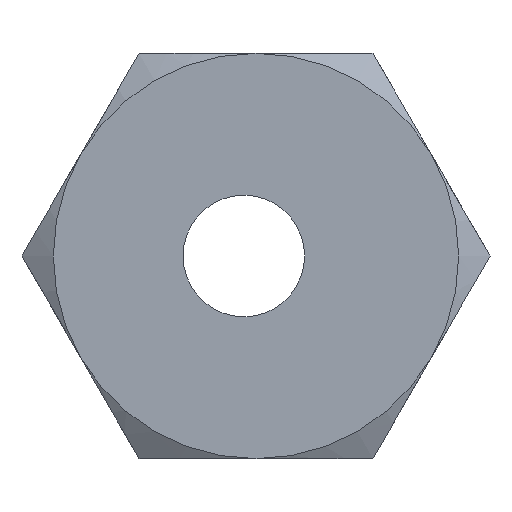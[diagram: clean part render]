
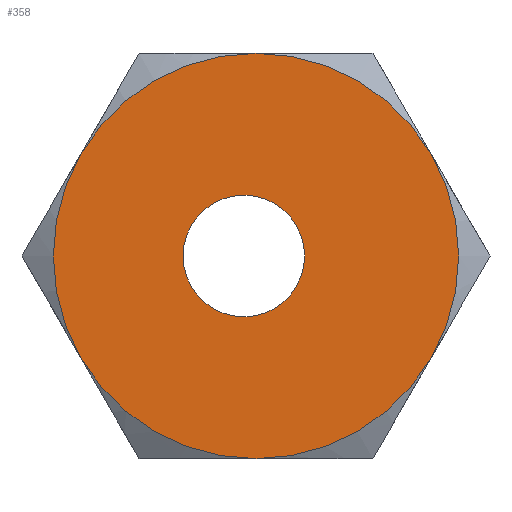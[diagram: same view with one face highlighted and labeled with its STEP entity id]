
A CAD part, left-side view. The second image highlights one B-rep face of the part: STEP entity #358.
In plain terms, the highlighted planar face has unit normal (-1, 0, 0).
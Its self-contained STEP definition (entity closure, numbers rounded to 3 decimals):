
#1 = CIRCLE ( 'NONE', #609, 5. ) ;
#13 = AXIS2_PLACEMENT_3D ( 'NONE', #542, #236, #647 ) ;
#50 = CARTESIAN_POINT ( 'NONE',  ( 0., 0., 0. ) ) ;
#55 = CARTESIAN_POINT ( 'NONE',  ( 0., 0., 0. ) ) ;
#62 = CARTESIAN_POINT ( 'NONE',  ( 0., 0., 0. ) ) ;
#63 = CIRCLE ( 'NONE', #154, 5. ) ;
#100 = ORIENTED_EDGE ( 'NONE', *, *, #121, .T. ) ;
#102 = DIRECTION ( 'NONE',  ( -1., 0., 0. ) ) ;
#103 = ORIENTED_EDGE ( 'NONE', *, *, #471, .T. ) ;
#106 = DIRECTION ( 'NONE',  ( 0., 1., 0. ) ) ;
#116 = CARTESIAN_POINT ( 'NONE',  ( 0., -4.33, 2.5 ) ) ;
#118 = CARTESIAN_POINT ( 'NONE',  ( 0., -4.33, -2.5 ) ) ;
#121 = EDGE_CURVE ( 'NONE', #194, #604, #63, .T. ) ;
#124 = DIRECTION ( 'NONE',  ( -1., 0., 0. ) ) ;
#131 = AXIS2_PLACEMENT_3D ( 'NONE', #160, #124, #431 ) ;
#154 = AXIS2_PLACEMENT_3D ( 'NONE', #62, #475, #106 ) ;
#158 = DIRECTION ( 'NONE',  ( 0., 1., 0. ) ) ;
#160 = CARTESIAN_POINT ( 'NONE',  ( 0., 0., 0. ) ) ;
#166 = AXIS2_PLACEMENT_3D ( 'NONE', #559, #249, #509 ) ;
#185 = FACE_OUTER_BOUND ( 'NONE', #624, .T. ) ;
#190 = ORIENTED_EDGE ( 'NONE', *, *, #305, .T. ) ;
#194 = VERTEX_POINT ( 'NONE', #230 ) ;
#198 = DIRECTION ( 'NONE',  ( -1., 0., 0. ) ) ;
#207 = CARTESIAN_POINT ( 'NONE',  ( 0., 0., 0. ) ) ;
#230 = CARTESIAN_POINT ( 'NONE',  ( 0., 0., -5. ) ) ;
#236 = DIRECTION ( 'NONE',  ( -1., 0., 0. ) ) ;
#237 = ORIENTED_EDGE ( 'NONE', *, *, #520, .T. ) ;
#241 = AXIS2_PLACEMENT_3D ( 'NONE', #405, #102, #517 ) ;
#247 = PLANE ( 'NONE',  #241 ) ;
#249 = DIRECTION ( 'NONE',  ( 1., 0., 0. ) ) ;
#254 = EDGE_LOOP ( 'NONE', ( #646 ) ) ;
#291 = AXIS2_PLACEMENT_3D ( 'NONE', #55, #538, #632 ) ;
#305 = EDGE_CURVE ( 'NONE', #604, #565, #368, .T. ) ;
#327 = CARTESIAN_POINT ( 'NONE',  ( 0., -1.2, 0. ) ) ;
#358 = ADVANCED_FACE ( 'NONE', ( #185, #438 ), #247, .T. ) ;
#368 = CIRCLE ( 'NONE', #13, 5. ) ;
#370 = VERTEX_POINT ( 'NONE', #327 ) ;
#401 = CIRCLE ( 'NONE', #455, 5. ) ;
#404 = CARTESIAN_POINT ( 'NONE',  ( 0., 4.33, -2.5 ) ) ;
#405 = CARTESIAN_POINT ( 'NONE',  ( 0., 2.5, 0. ) ) ;
#409 = DIRECTION ( 'NONE',  ( 0., 1., 0. ) ) ;
#412 = DIRECTION ( 'NONE',  ( -1., 0., 0. ) ) ;
#425 = CIRCLE ( 'NONE', #291, 5. ) ;
#431 = DIRECTION ( 'NONE',  ( 0., 1., 0. ) ) ;
#438 = FACE_BOUND ( 'NONE', #254, .T. ) ;
#442 = EDGE_CURVE ( 'NONE', #496, #652, #1, .T. ) ;
#455 = AXIS2_PLACEMENT_3D ( 'NONE', #207, #412, #158 ) ;
#471 = EDGE_CURVE ( 'NONE', #652, #194, #401, .T. ) ;
#475 = DIRECTION ( 'NONE',  ( -1., 0., 0. ) ) ;
#477 = CARTESIAN_POINT ( 'NONE',  ( 0., 0., 5. ) ) ;
#484 = CARTESIAN_POINT ( 'NONE',  ( 0., 4.33, 2.5 ) ) ;
#496 = VERTEX_POINT ( 'NONE', #484 ) ;
#505 = VERTEX_POINT ( 'NONE', #477 ) ;
#509 = DIRECTION ( 'NONE',  ( 0., -1., 0. ) ) ;
#511 = EDGE_CURVE ( 'NONE', #505, #496, #601, .T. ) ;
#517 = DIRECTION ( 'NONE',  ( 0., 0., 1. ) ) ;
#520 = EDGE_CURVE ( 'NONE', #565, #505, #425, .T. ) ;
#538 = DIRECTION ( 'NONE',  ( -1., 0., 0. ) ) ;
#542 = CARTESIAN_POINT ( 'NONE',  ( 0., 0., 0. ) ) ;
#559 = CARTESIAN_POINT ( 'NONE',  ( 0., 0.3, 0. ) ) ;
#565 = VERTEX_POINT ( 'NONE', #116 ) ;
#567 = ORIENTED_EDGE ( 'NONE', *, *, #442, .T. ) ;
#577 = ORIENTED_EDGE ( 'NONE', *, *, #511, .T. ) ;
#594 = CIRCLE ( 'NONE', #166, 1.5 ) ;
#601 = CIRCLE ( 'NONE', #131, 5. ) ;
#604 = VERTEX_POINT ( 'NONE', #118 ) ;
#609 = AXIS2_PLACEMENT_3D ( 'NONE', #50, #198, #409 ) ;
#624 = EDGE_LOOP ( 'NONE', ( #237, #577, #567, #103, #100, #190 ) ) ;
#632 = DIRECTION ( 'NONE',  ( 0., 1., 0. ) ) ;
#646 = ORIENTED_EDGE ( 'NONE', *, *, #650, .T. ) ;
#647 = DIRECTION ( 'NONE',  ( 0., 1., 0. ) ) ;
#650 = EDGE_CURVE ( 'NONE', #370, #370, #594, .T. ) ;
#652 = VERTEX_POINT ( 'NONE', #404 ) ;
